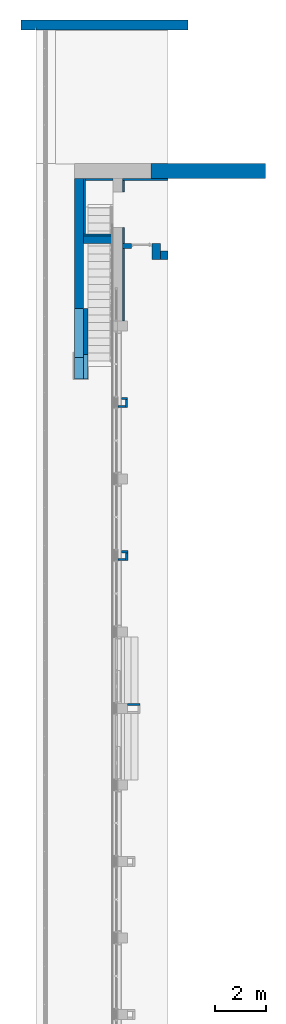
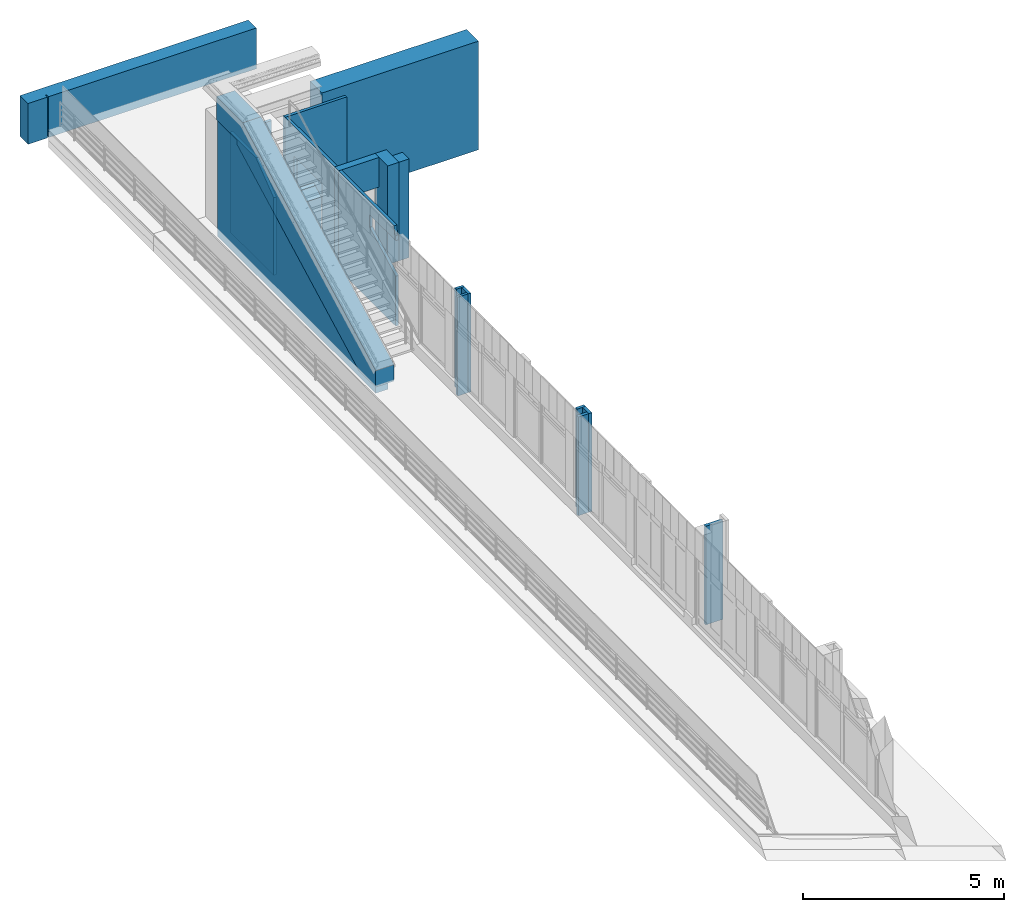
# One storey, part 8 of 16: 21 walls, 6 openings.
"""IFC2X3 building model written with IfcOpenShell, lengths in millimetres."""

from ifc_helpers import new_model, entity, si_unit, converted_unit, derived_unit, direction, frame, frame_2d, origin, place, context, subcontext, project, spatial, polyline, rectangle, outline, extrude, clip, halfspace, bounded_halfspace, faceted_brep, material, layer, layer_set, layer_usage, type_object, element, save


model = new_model("IFC2X3")

# Units and contexts
model_context = context("Model", 3, precision=0.01, world=origin(), true_north=direction((6.123031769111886e-17, 1.0)))
body_context = subcontext(model_context, "Body", "Model", "MODEL_VIEW")
ifc_project = project(units=[si_unit("LENGTHUNIT", "METRE", prefix="MILLI"), si_unit("AREAUNIT", "SQUARE_METRE"), si_unit("VOLUMEUNIT", "CUBIC_METRE"), converted_unit("PLANEANGLEUNIT", "DEGREE", entity("IfcPlaneAngleMeasure", 0.017453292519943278), si_unit("PLANEANGLEUNIT", "RADIAN"), dimensions=[0, 0, 0, 0, 0, 0, 0]), si_unit("MASSUNIT", "GRAM", prefix="KILO"), derived_unit("MASSDENSITYUNIT", [(si_unit("MASSUNIT", "GRAM", prefix="KILO"), 1), (si_unit("LENGTHUNIT", "METRE"), -3)]), derived_unit("IONCONCENTRATIONUNIT", [(si_unit("MASSUNIT", "GRAM", prefix="KILO"), 1), (si_unit("LENGTHUNIT", "METRE"), -3)]), derived_unit("MOMENTOFINERTIAUNIT", [(si_unit("LENGTHUNIT", "METRE"), 4)]), si_unit("TIMEUNIT", "SECOND"), si_unit("FREQUENCYUNIT", "HERTZ"), si_unit("THERMODYNAMICTEMPERATUREUNIT", "DEGREE_CELSIUS"), derived_unit("THERMALTRANSMITTANCEUNIT", [(si_unit("MASSUNIT", "GRAM", prefix="KILO"), 1), (si_unit("THERMODYNAMICTEMPERATUREUNIT", "KELVIN"), -1), (si_unit("TIMEUNIT", "SECOND"), -3)]), derived_unit("THERMALCONDUCTANCEUNIT", [(si_unit("MASSUNIT", "GRAM", prefix="KILO"), 1), (si_unit("THERMODYNAMICTEMPERATUREUNIT", "KELVIN"), -1), (si_unit("TIMEUNIT", "SECOND"), -3), (si_unit("LENGTHUNIT", "METRE"), 1)]), derived_unit("VOLUMETRICFLOWRATEUNIT", [(si_unit("LENGTHUNIT", "METRE", prefix="DECI"), 3), (si_unit("TIMEUNIT", "SECOND"), -1)]), derived_unit("MASSFLOWRATEUNIT", [(si_unit("MASSUNIT", "GRAM", prefix="KILO"), 1), (si_unit("TIMEUNIT", "SECOND"), -1)]), derived_unit("ROTATIONALFREQUENCYUNIT", [(si_unit("TIMEUNIT", "SECOND"), -1)]), si_unit("ELECTRICCURRENTUNIT", "AMPERE"), si_unit("ELECTRICVOLTAGEUNIT", "VOLT"), si_unit("POWERUNIT", "WATT"), si_unit("FORCEUNIT", "NEWTON", prefix="KILO"), si_unit("ILLUMINANCEUNIT", "LUX"), si_unit("LUMINOUSFLUXUNIT", "LUMEN"), si_unit("LUMINOUSINTENSITYUNIT", "CANDELA"), si_unit("ENERGYUNIT", "JOULE"), derived_unit("USERDEFINED", [(si_unit("MASSUNIT", "GRAM", prefix="KILO"), -1), (si_unit("LENGTHUNIT", "METRE"), -2), (si_unit("TIMEUNIT", "SECOND"), 3), (si_unit("LUMINOUSFLUXUNIT", "LUMEN"), 1)]), derived_unit("USERDEFINED", [(si_unit("MASSUNIT", "GRAM", prefix="KILO"), 1), (si_unit("TIMEUNIT", "SECOND"), -3), (si_unit("LENGTHUNIT", "METRE"), 3), (si_unit("ELECTRICCURRENTUNIT", "AMPERE"), -2)]), derived_unit("SOUNDPOWERUNIT", [(si_unit("MASSUNIT", "GRAM", prefix="KILO"), 1), (si_unit("TIMEUNIT", "SECOND"), -3), (si_unit("LENGTHUNIT", "METRE"), 2)]), derived_unit("SOUNDPRESSUREUNIT", [(si_unit("MASSUNIT", "GRAM", prefix="KILO"), 1), (si_unit("LENGTHUNIT", "METRE"), -1), (si_unit("TIMEUNIT", "SECOND"), -2)]), derived_unit("LINEARVELOCITYUNIT", [(si_unit("LENGTHUNIT", "METRE"), 1), (si_unit("TIMEUNIT", "SECOND"), -1)]), si_unit("PRESSUREUNIT", "PASCAL"), derived_unit("USERDEFINED", [(si_unit("MASSUNIT", "GRAM", prefix="KILO"), 1), (si_unit("LENGTHUNIT", "METRE"), -2), (si_unit("TIMEUNIT", "SECOND"), -2)]), derived_unit("LINEARFORCEUNIT", [(si_unit("MASSUNIT", "GRAM", prefix="KILO"), 1), (si_unit("TIMEUNIT", "SECOND"), -2)]), derived_unit("PLANARFORCEUNIT", [(si_unit("MASSUNIT", "GRAM", prefix="KILO"), 1), (si_unit("LENGTHUNIT", "METRE"), -1), (si_unit("TIMEUNIT", "SECOND"), -2)]), derived_unit("SPECIFICHEATCAPACITYUNIT", [(si_unit("THERMODYNAMICTEMPERATUREUNIT", "KELVIN"), -1), (si_unit("LENGTHUNIT", "METRE"), 2), (si_unit("TIMEUNIT", "SECOND"), -2)]), derived_unit("HEATFLUXDENSITYUNIT", [(si_unit("MASSUNIT", "GRAM", prefix="KILO"), 1), (si_unit("TIMEUNIT", "SECOND"), -3)]), derived_unit("HEATINGVALUEUNIT", [(si_unit("LENGTHUNIT", "METRE"), 2), (si_unit("TIMEUNIT", "SECOND"), -2)]), derived_unit("VAPORPERMEABILITYUNIT", [(si_unit("LENGTHUNIT", "METRE"), -1), (si_unit("TIMEUNIT", "SECOND"), 1)]), derived_unit("DYNAMICVISCOSITYUNIT", [(si_unit("MASSUNIT", "GRAM", prefix="KILO"), 1), (si_unit("TIMEUNIT", "SECOND"), -1), (si_unit("LENGTHUNIT", "METRE"), -1)]), derived_unit("THERMALEXPANSIONCOEFFICIENTUNIT", [(si_unit("THERMODYNAMICTEMPERATUREUNIT", "KELVIN"), -1)]), derived_unit("MODULUSOFELASTICITYUNIT", [(si_unit("MASSUNIT", "GRAM", prefix="KILO"), 1), (si_unit("LENGTHUNIT", "METRE"), -1), (si_unit("TIMEUNIT", "SECOND"), -2)]), derived_unit("ISOTHERMALMOISTURECAPACITYUNIT", [(si_unit("MASSUNIT", "GRAM", prefix="KILO"), -1), (si_unit("LENGTHUNIT", "METRE"), 3)]), derived_unit("MOISTUREDIFFUSIVITYUNIT", [(si_unit("TIMEUNIT", "SECOND"), -1), (si_unit("LENGTHUNIT", "METRE"), 2)]), derived_unit("MASSPERLENGTHUNIT", [(si_unit("MASSUNIT", "GRAM", prefix="KILO"), 1), (si_unit("LENGTHUNIT", "METRE"), -1)]), derived_unit("THERMALRESISTANCEUNIT", [(si_unit("MASSUNIT", "GRAM", prefix="KILO"), -1), (si_unit("TIMEUNIT", "SECOND"), 3), (si_unit("THERMODYNAMICTEMPERATUREUNIT", "KELVIN"), 1)]), derived_unit("ACCELERATIONUNIT", [(si_unit("LENGTHUNIT", "METRE"), 1), (si_unit("TIMEUNIT", "SECOND"), -2)]), derived_unit("ANGULARVELOCITYUNIT", [(si_unit("TIMEUNIT", "SECOND"), -1), (si_unit("PLANEANGLEUNIT", "RADIAN"), 1)]), derived_unit("LINEARSTIFFNESSUNIT", [(si_unit("MASSUNIT", "GRAM", prefix="KILO"), 1), (si_unit("TIMEUNIT", "SECOND"), -2)]), derived_unit("WARPINGCONSTANTUNIT", [(si_unit("LENGTHUNIT", "METRE"), 6)]), derived_unit("LINEARMOMENTUNIT", [(si_unit("MASSUNIT", "GRAM", prefix="KILO"), 1), (si_unit("LENGTHUNIT", "METRE"), 1), (si_unit("TIMEUNIT", "SECOND"), -2)]), derived_unit("TORQUEUNIT", [(si_unit("MASSUNIT", "GRAM", prefix="KILO"), 1), (si_unit("LENGTHUNIT", "METRE"), 2), (si_unit("TIMEUNIT", "SECOND"), -2)])], contexts=[model_context])

# Site, building, storey
site_placement = place(None, origin())
site = spatial("IfcSite", under=ifc_project, at=site_placement, Name="Default", CompositionType="ELEMENT")
building_placement = place(site_placement, origin())
building = spatial("IfcBuilding", under=site, at=building_placement, Name="Eesti Rahvusraamatukogu hoone renoveerimise projekteerimistööd", CompositionType="ELEMENT")
storey_placement = place(building_placement, frame((0.0, 0.0, 8250.000000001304)))
storey = spatial("IfcBuildingStorey", under=building, at=storey_placement, Name="3. korrus", CompositionType="ELEMENT", Elevation=8250.000000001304)

# Wall
ifc_material_1 = material(Name="ol. olev materjal")
ifc_layer_1 = layer(ifc_material_1, 590.0)
ifc_layer_set_1 = layer_set([ifc_layer_1], Name="Basic Wall:ol. olev - 590mm")
ifc_layer_usage_1 = layer_usage(ifc_layer_set_1, "AXIS2", "NEGATIVE", 295.0)
wall_type_1 = type_object("IfcWallType", Name="Basic Wall:ol. olev - 590mm", PredefinedType="STANDARD", material=ifc_layer_set_1)
wall_1_placement = place(storey_placement, frame((-32280.0, 48485.0, 0.0)))
element("IfcWallStandardCase", 1, at=wall_1_placement, inside=storey, type_object=wall_type_1, material=ifc_layer_usage_1, Name="Basic Wall:ol. olev - 590mm", ObjectType="Basic Wall:ol. olev - 590mm", context=body_context, shape_type="SweptSolid", body=[
    extrude(rectangle(XDim=4499.999999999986, YDim=590.0000000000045, at=frame_2d((2249.999999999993, -5.684341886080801e-13), x_axis=(-1.0, 0.0))), origin(), (0.0, 0.0, 1.0), 3299.999999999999),
])

# Wall, opening
ifc_layer_2 = layer(ifc_material_1, 200.0)
ifc_layer_set_2 = layer_set([ifc_layer_2], Name="Basic Wall:ol. olev - 200mm")
ifc_layer_usage_2 = layer_usage(ifc_layer_set_2, "AXIS2", "NEGATIVE", 100.0)
wall_type_2 = type_object("IfcWallType", Name="Basic Wall:ol. olev - 200mm", PredefinedType="STANDARD", material=ifc_layer_set_2)
wall_2_placement = place(storey_placement, frame((-32230.0, 45530.0, 0.0), z_axis=(0.0, 0.0, 1.0), x_axis=(-1.0, 0.0, 0.0)))
wall_2 = element("IfcWallStandardCase", 2, at=wall_2_placement, inside=storey, type_object=wall_type_2, material=ifc_layer_usage_2, Name="Basic Wall:ol. olev - 200mm", ObjectType="Basic Wall:ol. olev - 200mm", context=body_context, shape_type="SweptSolid", body=[
    extrude(rectangle(XDim=1160.0000000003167, YDim=200.0000000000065, at=frame_2d((580.0000000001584, -7.958078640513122e-13), x_axis=(-1.0, 0.0))), origin(), (0.0, 0.0, 1.0), 3000.0000000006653),
])
opening_1_placement = place(wall_2_placement, frame((800.0, 100.0, 0.0)))
element("IfcOpeningElement", 3, at=opening_1_placement, cuts=wall_2, Name="SMA_D01, 1-poolne:ol. olev MKU-15 - 800x2100:1", ObjectType="Opening", context=body_context, shape_type="SweptSolid", body=[
    extrude(rectangle(XDim=2099.999999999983, YDim=799.9999999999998, at=frame_2d((1049.999999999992, 400.0000000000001), x_axis=(1.0, 0.0))), frame((0.0, 0.0, 0.0), z_axis=(0.0, -1.0, 0.0), x_axis=(0.0, 0.0, 1.0)), (0.0, 0.0, 1.0), 200.0),
])

ifc_layer_3 = layer(ifc_material_1, 400.0)
ifc_layer_set_3 = layer_set([ifc_layer_3], Name="Basic Wall:ol. olev - 400mm")
ifc_layer_usage_3 = layer_usage(ifc_layer_set_3, "AXIS2", "NEGATIVE", 200.0)
wall_type_3 = type_object("IfcWallType", Name="Basic Wall:ol. olev - 400mm", PredefinedType="STANDARD", material=ifc_layer_set_3)
wall_3_placement = place(storey_placement, frame((-37370.0, 54200.0, 0.0)))
wall_3 = element("IfcWallStandardCase", 4, at=wall_3_placement, inside=storey, type_object=wall_type_3, material=ifc_layer_usage_3, Name="Basic Wall:ol. olev - 400mm", ObjectType="Basic Wall:ol. olev - 400mm", context=body_context, shape_type="SweptSolid", body=[
    extrude(rectangle(XDim=6560.0000000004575, YDim=399.9999999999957, at=frame_2d((3280.0000000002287, 9.663381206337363e-13), x_axis=(-1.0, 0.0))), origin(), (0.0, 0.0, 1.0), 1239.4108405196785),
])
opening_2_placement = place(wall_3_placement, frame((560.0, -200.0, 0.0)))
element("IfcOpeningElement", 5, at=opening_2_placement, cuts=wall_3, Name="Basic Wall:ol. olev - 400mm", ObjectType="Recess", context=body_context, shape_type="SweptSolid", body=[
    extrude(rectangle(XDim=1239.4108405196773, YDim=30.00000000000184, at=frame_2d((-5.684341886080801e-13, 4.331646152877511e-12), x_axis=(1.0, 0.0))), frame((15.0, 0.0, 619.7054202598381), z_axis=(0.0, 1.0, 0.0), x_axis=(0.0, 0.0, -1.0)), (0.0, 0.0, 1.0), 100.00000000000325),
])

ifc_layer_4 = layer(ifc_material_1, 360.0)
ifc_layer_set_4 = layer_set([ifc_layer_4], Name="Basic Wall:ol. olev - 360mm")
ifc_layer_usage_4 = layer_usage(ifc_layer_set_4, "AXIS2", "NEGATIVE", 180.0)
wall_type_4 = type_object("IfcWallType", Name="Basic Wall:ol. olev - 360mm", PredefinedType="STANDARD", material=ifc_layer_set_4)
wall_4_placement = place(storey_placement, frame((-35100.0, 40315.35496475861, 0.0), z_axis=(0.0, 0.0, 1.0), x_axis=(0.0, 1.0, 0.0)))
wall_4 = element("IfcWallStandardCase", 6, at=wall_4_placement, inside=storey, type_object=wall_type_4, material=ifc_layer_usage_4, Name="Basic Wall:ol. olev - 360mm", ObjectType="Basic Wall:ol. olev - 360mm", context=body_context, shape_type="SweptSolid", body=[
    extrude(rectangle(XDim=7874.645035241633, YDim=359.99999999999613, at=frame_2d((3937.3225176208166, -5.400124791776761e-13), x_axis=(-1.0, 0.0))), origin(), (0.0, 0.0, 1.0), 3510.0000000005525),
])
opening_3_placement = place(wall_4_placement, origin())
element("IfcOpeningElement", 7, at=opening_3_placement, cuts=wall_4, Name="Basic Wall:ol. olev - 360mm", ObjectType="Opening", context=body_context, shape_type="SweptSolid", body=[
    extrude(outline(polyline([(-3973.7395379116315, -1353.7423974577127), (2930.905497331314, -1353.7423974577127), (2930.905497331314, 1966.2576025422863), (2085.6680811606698, 1966.257602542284), (-3973.7395379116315, -1225.03041016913), (-3973.7395379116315, -1353.7423974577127)])), frame((2930.905497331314, 180.0, 2156.2576025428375), z_axis=(0.0, -1.0, 0.0), x_axis=(-1.0, 0.0, 0.0)), (0.0, 0.0, 1.0), 360.0),
])

# Wall
ifc_layer_5 = layer(ifc_material_1, 330.00000000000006)
ifc_layer_set_5 = layer_set([ifc_layer_5], Name="Basic Wall:ol. olev - 330mm")
wall_type_5 = type_object("IfcWallType", Name="Basic Wall:ol. olev - 330mm", PredefinedType="STANDARD", material=ifc_layer_set_5)
wall_5_placement = place(storey_placement, frame((-27530.0, 45165.0, 0.0), z_axis=(0.0, 0.0, 1.0), x_axis=(-1.0, 0.0, 0.0)))
element("IfcWall", 8, at=wall_5_placement, inside=storey, type_object=wall_type_5, Name="Basic Wall:ol. olev - 330mm", ObjectType="Basic Wall:ol. olev - 330mm", context=body_context, shape_type="Brep", body=[
    faceted_brep([(4079.818431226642, -165.0, 0.0), (4370.0, -165.0, 0.0), (4370.0, -165.0, 3000.0), (4079.818431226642, -165.0, 3000.0), (4370.0, 165.0, 0.0), (4079.8184312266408, 165.0, 0.0), (4079.8184312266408, 165.0, 3000.0), (4370.0, 165.0, 3000.0)], [[[0, 1, 2, 3]], [[4, 5, 6, 7]], [[1, 0, 5, 4]], [[2, 1, 4, 7]], [[2, 7, 6, 3]], [[0, 3, 6, 5]]]),
])

# Wall, opening
ifc_layer_usage_5 = layer_usage(ifc_layer_set_5, "AXIS2", "NEGATIVE", 165.00000000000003)
wall_6_placement = place(storey_placement, frame((-32065.0, 45000.0, 0.0), z_axis=(0.0, 0.0, 1.0), x_axis=(0.0, 1.0, 0.0)))
wall_6 = element("IfcWallStandardCase", 9, at=wall_6_placement, inside=storey, type_object=wall_type_5, material=ifc_layer_usage_5, Name="Basic Wall:ol. olev - 330mm", ObjectType="Basic Wall:ol. olev - 330mm", context=body_context, shape_type="SweptSolid", body=[
    extrude(rectangle(XDim=629.9999999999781, YDim=330.00000000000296, at=frame_2d((314.99999999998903, 0.0), x_axis=(-1.0, 0.0))), origin(), (0.0, 0.0, 1.0), 3000.000000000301),
])
opening_4_placement = place(wall_6_placement, frame((-45000.0, -32065.0, 0.0)))
element("IfcOpeningElement", 10, at=opening_4_placement, cuts=wall_6, Name="Basic Wall:ol. olev - 330mm", ObjectType="Opening", context=body_context, shape_type="SweptSolid", body=[
    extrude(rectangle(XDim=2099.999999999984, YDim=199.99999999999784, at=frame_2d((4.334310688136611e-12, 0.0), x_axis=(0.0, 1.0))), frame((45530.0, 32230.0, 1050.0), z_axis=(0.0, 1.0, 0.0), x_axis=(-1.0, 0.0, 0.0)), (0.0, 0.0, 1.0), 800.0),
])

# Wall
ifc_layer_6 = layer(ifc_material_1, 300.0)
ifc_layer_set_6 = layer_set([ifc_layer_6], Name="Basic Wall:ol. olev - 300mm")
ifc_layer_usage_6 = layer_usage(ifc_layer_set_6, "AXIS2", "NEGATIVE", 150.0)
wall_type_6 = type_object("IfcWallType", Name="Basic Wall:ol. olev - 300mm", PredefinedType="STANDARD", material=ifc_layer_set_6)
wall_7_placement = place(storey_placement, frame((-34920.0, 45780.0, 0.0)))
element("IfcWallStandardCase", 11, at=wall_7_placement, inside=storey, type_object=wall_type_6, material=ifc_layer_usage_6, Name="Basic Wall:ol. olev - 300mm", ObjectType="Basic Wall:ol. olev - 300mm", context=body_context, shape_type="Clipping", body=[
    clip(extrude(rectangle(XDim=1149.9999999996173, YDim=300.00000000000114, at=frame_2d((574.9999999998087, 1.6200374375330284e-12), x_axis=(-1.0, 0.0))), origin(), (0.0, 0.0, 1.0), 2373.2143171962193), bounded_halfspace(frame((0.0, -150.0, 2215.2143171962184), z_axis=(0.0, 0.4659895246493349, -0.8847902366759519), x_axis=(-1.0, 0.0, 0.0)), True, frame((0.0, -150.0, 2215.2143171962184)), polyline([(0.0, 0.0), (1150.0, 0.0), (1150.0, 300.0), (0.0, 300.0), (0.0, 0.0)]))),
])

# Wall, opening
ifc_layer_7 = layer(ifc_material_1, 530.0)
ifc_layer_set_7 = layer_set([ifc_layer_7], Name="Basic Wall:ol. olev - 530mm")
ifc_layer_usage_7 = layer_usage(ifc_layer_set_7, "AXIS2", "NEGATIVE", 265.0)
wall_type_7 = type_object("IfcWallType", Name="Basic Wall:ol. olev - 530mm", PredefinedType="STANDARD", material=ifc_layer_set_7)
wall_8_placement = place(storey_placement, frame((-35015.0, 48250.0, 190.0), z_axis=(0.0, 0.0, 1.0), x_axis=(0.0, -1.0, 0.0)))
wall_8 = element("IfcWallStandardCase", 12, at=wall_8_placement, inside=storey, type_object=wall_type_7, material=ifc_layer_usage_7, Name="Basic Wall:ol. olev - 530mm", ObjectType="Basic Wall:ol. olev - 530mm", context=body_context, shape_type="Clipping", body=[
    clip(clip(extrude(rectangle(XDim=7934.645035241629, YDim=530.0000000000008, at=frame_2d((3967.3225176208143, 5.684341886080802e-14), x_axis=(-1.0, 0.0))), origin(), (0.0, 0.0, 1.0), 4017.589801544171), halfspace(frame((7934.645035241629, -265.0, 0.0), z_axis=(0.0, 0.0, -1.0), x_axis=(0.0, 1.0, 0.0)), False)), halfspace(frame((1317.105679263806, -265.0, 4017.589801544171), z_axis=(0.46947156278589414, 0.0, 0.8829475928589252), x_axis=(0.0, 1.0, 0.0)), False)),
])
opening_5_placement = place(wall_8_placement, origin())
element("IfcOpeningElement", 13, at=opening_5_placement, cuts=wall_8, Name="Basic Wall:ol. olev - 530mm", ObjectType="Opening", context=body_context, shape_type="SweptSolid", body=[
    extrude(outline(polyline([(-1353.7423974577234, -1970.881523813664), (1966.2576025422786, -1970.881523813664), (1966.2576025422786, 5353.526095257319), (-1225.0304101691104, -705.8815238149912), (-1353.7423974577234, -705.8815238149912), (-1353.7423974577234, -1970.881523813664)])), frame((1735.8815238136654, 265.0, 1966.257602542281), z_axis=(0.0, -1.0, 0.0), x_axis=(0.0, 0.0, -1.0)), (0.0, 0.0, 1.0), 530.0),
])

# Wall
ifc_material_2 = material(Name="EST. Soojustus.PIR_Powerwall Pro")
ifc_layer_8 = layer(ifc_material_2, 30.0)
ifc_material_3 = material(Name="EST. Metall. Alumiinium. Mütsprofiil.")
ifc_layer_9 = layer(ifc_material_3, 42.0)
ifc_material_4 = material(Name="EST. Ehitusplaat. Kipsplaat")
ifc_layer_10 = layer(ifc_material_4, 12.5)
ifc_layer_set_8 = layer_set([ifc_layer_8, ifc_layer_9, ifc_layer_10], Name="Basic Wall:VS-03.1 - soojustus")
ifc_layer_usage_8 = layer_usage(ifc_layer_set_8, "AXIS2", "NEGATIVE", 42.25000000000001)
wall_type_8 = type_object("IfcWallType", Name="Basic Wall:VS-03.1 - soojustus", PredefinedType="STANDARD", material=ifc_layer_set_8)
wall_9_placement = place(storey_placement, frame((-33390.0, 48147.75000000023, 0.0)))
element("IfcWallStandardCase", 14, at=wall_9_placement, inside=storey, type_object=wall_type_8, material=ifc_layer_usage_8, Name="Basic Wall:VS-03.1 - soojustus", ObjectType="Basic Wall:VS-03.1 - soojustus", context=body_context, shape_type="SweptSolid", body=[
    extrude(rectangle(XDim=84.49999999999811, YDim=1780.1815687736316, at=frame_2d((8.449999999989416, -161.11815687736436), x_axis=(1.0, 0.0))), frame((728.9726275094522, -8.449999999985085, 0.0), z_axis=(0.0, 0.0, 1.0), x_axis=(0.0, 1.0, 0.0)), (0.0, 0.0, 1.0), 3000.0000000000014),
])

# Wall, opening
ifc_layer_usage_9 = layer_usage(ifc_layer_set_8, "AXIS2", "POSITIVE", -42.25000000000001)
wall_10_placement = place(storey_placement, frame((-33347.74999999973, 48105.50000000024, 0.0), z_axis=(0.0, 0.0, 1.0), x_axis=(0.0, -1.0, 0.0)))
wall_10 = element("IfcWallStandardCase", 15, at=wall_10_placement, inside=storey, type_object=wall_type_8, material=ifc_layer_usage_9, Name="Basic Wall:VS-03.1 - soojustus", ObjectType="Basic Wall:VS-03.1 - soojustus", context=body_context, shape_type="SweptSolid", body=[
    extrude(rectangle(XDim=2475.499999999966, YDim=84.49999999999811, at=frame_2d((1237.749999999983, 5.506706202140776e-13), x_axis=(1.0, 0.0))), origin(), (0.0, 0.0, 1.0), 3000.0000000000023),
])
opening_6_placement = place(wall_10_placement, frame((48105.50000000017, 33347.74999999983, 0.0)))
element("IfcOpeningElement", 16, at=opening_6_placement, cuts=wall_10, Name="Basic Wall:VS-03.1 - soojustus", ObjectType="Opening", context=body_context, shape_type="SweptSolid", body=[
    extrude(rectangle(XDim=2100.0, YDim=1379.9999999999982, at=frame_2d((0.0, -5.684341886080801e-13), x_axis=(0.0, 1.0))), frame((-46955.0, -35294.0, 1050.0), z_axis=(0.0, 1.0, 0.0), x_axis=(1.0, 0.0, 0.0)), (0.0, 0.0, 1.0), 3048.0),
])

# Walls
wall_11_placement = place(storey_placement, frame((-33347.74999999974, 45430.0, 0.0), z_axis=(0.0, 0.0, 1.0), x_axis=(0.0, -1.0, 0.0)))
element("IfcWall", 17, at=wall_11_placement, inside=storey, type_object=wall_type_8, Name="Basic Wall:VS-03.1 - soojustus", ObjectType="Basic Wall:VS-03.1 - soojustus", context=body_context, shape_type="Brep", body=[
    faceted_brep([(0.0, -42.25000000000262, 0.0), (2840.000000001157, -42.250000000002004, 0.0), (2840.000000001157, -42.250000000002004, 1515.384615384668), (1540.0000000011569, -42.25000000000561, 2215.3846153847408), (1540.0000000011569, -42.25000000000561, 2600.0), (2840.000000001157, -42.250000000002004, 2600.0), (2840.000000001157, -42.250000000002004, 2750.0), (2780.0, -42.25000000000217, 2750.0), (2758.2608695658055, -42.25000000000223, 3000.0), (0.0, -42.25000000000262, 3000.0), (2840.000000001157, 42.249999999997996, 0.0), (0.0, 42.24999999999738, 0.0), (0.0, 42.24999999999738, 3000.0), (2758.260869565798, 42.24999999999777, 3000.0), (2780.0, 42.24999999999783, 2750.0), (2840.000000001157, 42.249999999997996, 2750.0), (2840.000000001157, 42.249999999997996, 2600.0), (1540.0000000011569, 42.24999999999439, 2600.0), (1540.0000000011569, 42.24999999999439, 2215.3846153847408), (2840.000000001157, 42.249999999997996, 1515.384615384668)], [[[0, 1, 2, 3, 4, 5, 6, 7, 8, 9]], [[10, 11, 12, 13, 14, 15, 16, 17, 18, 19]], [[14, 7, 6, 15]], [[7, 14, 13, 8]], [[1, 0, 11, 10]], [[2, 1, 10, 19]], [[12, 9, 8, 13]], [[0, 9, 12, 11]], [[3, 2, 19, 18]], [[4, 3, 18, 17]], [[5, 4, 17, 16]], [[5, 16, 15, 6]]]),
])
ifc_layer_usage_10 = layer_usage(ifc_layer_set_8, "AXIS2", "NEGATIVE", 42.25000000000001)
wall_12_placement = place(storey_placement, frame((-33770.0, 45972.25000000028, 0.0), z_axis=(0.0, 0.0, 1.0), x_axis=(-1.0, 0.0, 0.0)))
element("IfcWallStandardCase", 18, at=wall_12_placement, inside=storey, type_object=wall_type_8, material=ifc_layer_usage_10, Name="Basic Wall:VS-03.1 - soojustus", ObjectType="Basic Wall:VS-03.1 - soojustus", context=body_context, shape_type="Clipping", body=[
    clip(extrude(rectangle(XDim=1149.999999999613, YDim=84.50000000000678, at=frame_2d((574.9999999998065, 0.0), x_axis=(-1.0, 0.0))), origin(), (0.0, 0.0, 1.0), 2417.7176505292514), bounded_halfspace(frame((0.0, -42.24999999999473, 2417.7176505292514), z_axis=(0.0, -0.4659895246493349, -0.8847902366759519), x_axis=(1.0, 0.0, 0.0)), True, frame((0.0, -42.24999999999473, 2417.7176505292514)), polyline([(0.0, 0.0), (1150.0, 0.0), (1150.0, 84.49999999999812), (0.0, 84.49999999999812), (0.0, 0.0)]))),
])
ifc_layer_usage_11 = layer_usage(ifc_layer_set_8, "AXIS2", "NEGATIVE", 42.25000000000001)
wall_13_placement = place(storey_placement, frame((-34877.74999999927, 46014.50000000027, 0.0), z_axis=(0.0, 0.0, 1.0), x_axis=(0.0, 1.0, 0.0)))
element("IfcWallStandardCase", 19, at=wall_13_placement, inside=storey, type_object=wall_type_8, material=ifc_layer_usage_11, Name="Basic Wall:VS-03.1 - soojustus", ObjectType="Basic Wall:VS-03.1 - soojustus", context=body_context, shape_type="Clipping", body=[
    clip(clip(extrude(rectangle(XDim=2175.499999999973, YDim=84.49999999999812, at=frame_2d((1087.7499999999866, -7.815970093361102e-14), x_axis=(-1.0, 0.0))), origin(), (0.0, 0.0, 1.0), 3037.116511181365), bounded_halfspace(frame((0.0, -42.24999999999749, 0.0), z_axis=(1.0, 0.0, 0.0), x_axis=(0.0, 1.0, 0.0)), True, frame((0.0, -42.24999999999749, 0.0), z_axis=(1.0, 0.0, 0.0), x_axis=(0.0, 1.0, 0.0)), polyline([(0.0, 0.0), (84.49999999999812, 0.0), (84.49999999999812, 2359.227717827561), (0.0, 2359.2277178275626), (0.0, 0.0)]))), halfspace(frame((881.0737860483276, -42.24999999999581, 3037.116511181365), z_axis=(-0.6097897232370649, 0.0, 0.7925632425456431), x_axis=(0.0, 1.0, 0.0)), False)),
])
ifc_layer_usage_12 = layer_usage(ifc_layer_set_8, "AXIS2", "NEGATIVE", 42.25000000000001)
wall_14_placement = place(storey_placement, frame((-34835.499999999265, 48147.75000000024, 0.0)))
element("IfcWallStandardCase", 20, at=wall_14_placement, inside=storey, type_object=wall_type_8, material=ifc_layer_usage_12, Name="Basic Wall:VS-03.1 - soojustus", ObjectType="Basic Wall:VS-03.1 - soojustus", context=body_context, shape_type="Clipping", body=[
    clip(extrude(rectangle(XDim=1065.4999999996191, YDim=84.50000000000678, at=frame_2d((532.7499999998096, 0.0), x_axis=(-1.0, 0.0))), origin(), (0.0, 0.0, 1.0), 3037.1165111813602), bounded_halfspace(frame((0.0, -42.24999999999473, 0.0), z_axis=(1.0, 0.0, 0.0), x_axis=(0.0, 1.0, 0.0)), True, frame((0.0, -42.24999999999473, 0.0), z_axis=(1.0, 0.0, 0.0), x_axis=(0.0, 1.0, 0.0)), polyline([(0.0, 0.0), (84.49999999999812, 0.0), (84.49999999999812, 3037.1165111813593), (0.0, 3037.1165111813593), (0.0, 0.0)]))),
])
ifc_layer_11 = layer(ifc_material_4, 13.000000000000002)
ifc_material_5 = material(Name="EST. Õhkvahe. Roov. Kipsplaadi alusroov. Vertikaalne")
ifc_layer_12 = layer(ifc_material_5, 67.0)
ifc_layer_set_9 = layer_set([ifc_layer_11, ifc_layer_12], Name="Basic Wall:SS-57 - 80 kergsein wc")
ifc_layer_usage_13 = layer_usage(ifc_layer_set_9, "AXIS2", "NEGATIVE", 39.99999999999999)
wall_type_9 = type_object("IfcWallType", Name="Basic Wall:SS-57 - 80 kergsein wc", PredefinedType="STANDARD", material=ifc_layer_set_9)
wall_15_placement = place(storey_placement, frame((-33570.0, 39550.0, 0.0)))
element("IfcWallStandardCase", 21, at=wall_15_placement, inside=storey, type_object=wall_type_9, material=ifc_layer_usage_13, Name="Basic Wall:SS-57 - 80 kergsein wc", ObjectType="Basic Wall:SS-57 - 80 kergsein wc", context=body_context, shape_type="SweptSolid", body=[
    extrude(rectangle(XDim=235.00000000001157, YDim=79.99999999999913, at=frame_2d((262.49999999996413, 0.0), x_axis=(-1.0, 0.0))), origin(), (0.0, 0.0, 1.0), 3000.0000000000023),
])
ifc_layer_usage_14 = layer_usage(ifc_layer_set_9, "AXIS2", "NEGATIVE", 39.99999999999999)
wall_16_placement = place(storey_placement, frame((-33230.0, 39510.0, 0.0), z_axis=(0.0, 0.0, 1.0), x_axis=(0.0, -1.0, 0.0)))
element("IfcWallStandardCase", 22, at=wall_16_placement, inside=storey, type_object=wall_type_9, material=ifc_layer_usage_14, Name="Basic Wall:SS-57 - 80 kergsein wc", ObjectType="Basic Wall:SS-57 - 80 kergsein wc", context=body_context, shape_type="SweptSolid", body=[
    extrude(rectangle(XDim=320.00000000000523, YDim=79.99999999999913, at=frame_2d((160.00000000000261, 0.0), x_axis=(-1.0, 0.0))), origin(), (0.0, 0.0, 1.0), 3000.0000000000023),
])
ifc_layer_usage_15 = layer_usage(ifc_layer_set_9, "AXIS2", "NEGATIVE", 39.99999999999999)
wall_17_placement = place(storey_placement, frame((-33270.0, 39230.0, 0.0), z_axis=(0.0, 0.0, 1.0), x_axis=(-1.0, 0.0, 0.0)))
element("IfcWallStandardCase", 23, at=wall_17_placement, inside=storey, type_object=wall_type_9, material=ifc_layer_usage_15, Name="Basic Wall:SS-57 - 80 kergsein wc", ObjectType="Basic Wall:SS-57 - 80 kergsein wc", context=body_context, shape_type="SweptSolid", body=[
    extrude(rectangle(XDim=299.9999999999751, YDim=79.99999999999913, at=frame_2d((149.99999999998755, 0.0), x_axis=(-1.0, 0.0))), origin(), (0.0, 0.0, 1.0), 3000.0000000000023),
])
ifc_layer_13 = layer(ifc_material_4, 12.5)
ifc_material_6 = material(Name="EST. Ehitusplaat. OSB")
ifc_layer_14 = layer(ifc_material_6, 12.0)
ifc_material_7 = material(Name="EST. Roov. Kipsplaadi alusroov.Mineraalvillaga. Vertikaalne")
ifc_layer_15 = layer(ifc_material_7, 66.0)
ifc_layer_set_10 = layer_set([ifc_layer_13, ifc_layer_14, ifc_layer_15], Name="Basic Wall:SS-50.1 - 115 kergsein 38db ühepoolne")
ifc_layer_usage_16 = layer_usage(ifc_layer_set_10, "AXIS2", "NEGATIVE", 45.25)
wall_type_10 = type_object("IfcWallType", Name="Basic Wall:SS-50.1 - 115 kergsein 38db ühepoolne", PredefinedType="STANDARD", material=ifc_layer_set_10)
wall_18_placement = place(storey_placement, frame((-33190.0, 27544.749999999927, 0.0)))
element("IfcWallStandardCase", 24, at=wall_18_placement, inside=storey, type_object=wall_type_10, material=ifc_layer_usage_16, Name="Basic Wall:SS-50.1 - 115 kergsein 38db ühepoolne", ObjectType="Basic Wall:SS-50.1 - 115 kergsein 38db ühepoolne", context=body_context, shape_type="SweptSolid", body=[
    extrude(rectangle(XDim=490.50000000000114, YDim=90.49999999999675, at=frame_2d((245.25000000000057, 0.0), x_axis=(-1.0, 0.0))), origin(), (0.0, 0.0, 1.0), 3000.000000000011),
])
ifc_layer_usage_17 = layer_usage(ifc_layer_set_10, "AXIS2", "NEGATIVE", 45.25)
wall_19_placement = place(storey_placement, frame((-33570.0, 33544.74999999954, 0.0)))
element("IfcWallStandardCase", 25, at=wall_19_placement, inside=storey, type_object=wall_type_10, material=ifc_layer_usage_17, Name="Basic Wall:SS-50.1 - 115 kergsein 38db ühepoolne", ObjectType="Basic Wall:SS-50.1 - 115 kergsein 38db ühepoolne", context=body_context, shape_type="SweptSolid", body=[
    extrude(rectangle(XDim=245.49999999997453, YDim=90.50000000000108, at=frame_2d((267.7500000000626, -4.476419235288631e-13), x_axis=(-1.0, 0.0))), origin(), (0.0, 0.0, 1.0), 3000.0000000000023),
])
ifc_layer_usage_18 = layer_usage(ifc_layer_set_10, "AXIS2", "NEGATIVE", 45.25)
wall_20_placement = place(storey_placement, frame((-33224.74999999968, 33499.49999999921, 0.0), z_axis=(0.0, 0.0, 1.0), x_axis=(0.0, -1.0, 0.0)))
element("IfcWallStandardCase", 26, at=wall_20_placement, inside=storey, type_object=wall_type_10, material=ifc_layer_usage_18, Name="Basic Wall:SS-50.1 - 115 kergsein 38db ühepoolne", ObjectType="Basic Wall:SS-50.1 - 115 kergsein 38db ühepoolne", context=body_context, shape_type="SweptSolid", body=[
    extrude(rectangle(XDim=309.49999999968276, YDim=90.49999999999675, at=frame_2d((154.74999999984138, 0.0), x_axis=(-1.0, 0.0))), origin(), (0.0, 0.0, 1.0), 3000.0000000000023),
])
ifc_layer_usage_19 = layer_usage(ifc_layer_set_10, "AXIS2", "NEGATIVE", 45.25)
wall_21_placement = place(storey_placement, frame((-33270.0, 33235.24999999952, 0.0), z_axis=(0.0, 0.0, 1.0), x_axis=(-1.0, 0.0, 0.0)))
element("IfcWallStandardCase", 27, at=wall_21_placement, inside=storey, type_object=wall_type_10, material=ifc_layer_usage_19, Name="Basic Wall:SS-50.1 - 115 kergsein 38db ühepoolne", ObjectType="Basic Wall:SS-50.1 - 115 kergsein 38db ühepoolne", context=body_context, shape_type="SweptSolid", body=[
    extrude(rectangle(XDim=300.0000000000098, YDim=90.49999999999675, at=frame_2d((150.0000000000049, 0.0), x_axis=(-1.0, 0.0))), origin(), (0.0, 0.0, 1.0), 3000.0000000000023),
])

save(model, "model.ifc")
